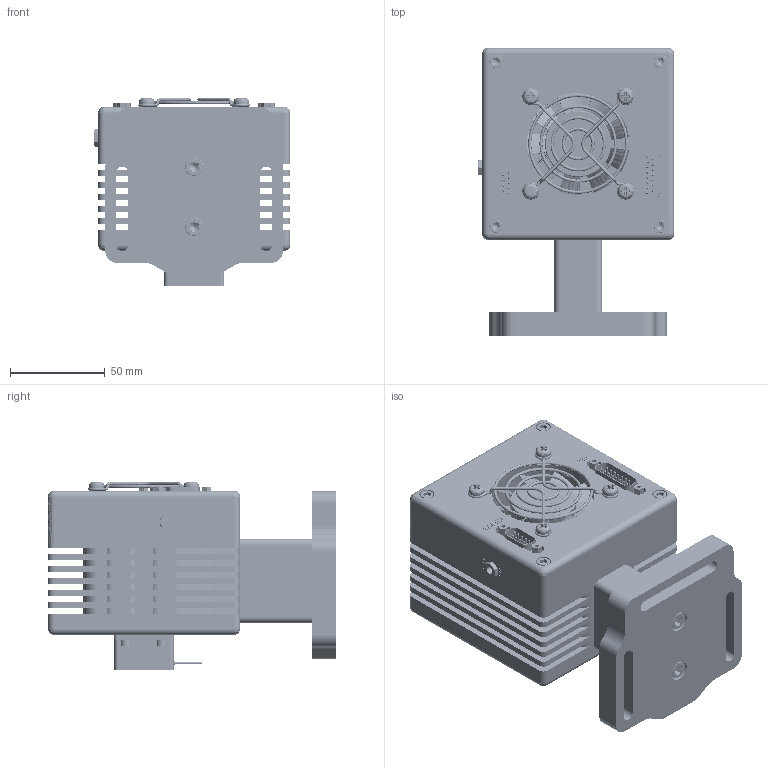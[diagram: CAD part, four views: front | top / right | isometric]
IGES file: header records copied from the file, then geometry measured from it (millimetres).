
Start section: SolidWorks IGES file using analytic representation for surfaces
Global section: file name: C:\Dropbox\Mechanical Engr\CAD Models for Customers\650-1017, Customer, 244 LaserMount.IGS; native system: SolidWorks 2010; preprocessor: SolidWorks 2010; author: mhanson; date: 131114.155126; units: inch
Bounding box: 103.89 x 152.4 x 99.25 mm (x, y, z)
Surface area: 178217.1 mm2 (no closed solid volume)
Topology: 0 solids, 0 shells, 2865 faces, 37013 edges, 36973 vertices
Faces by surface type: bspline 2013, revolution 852
